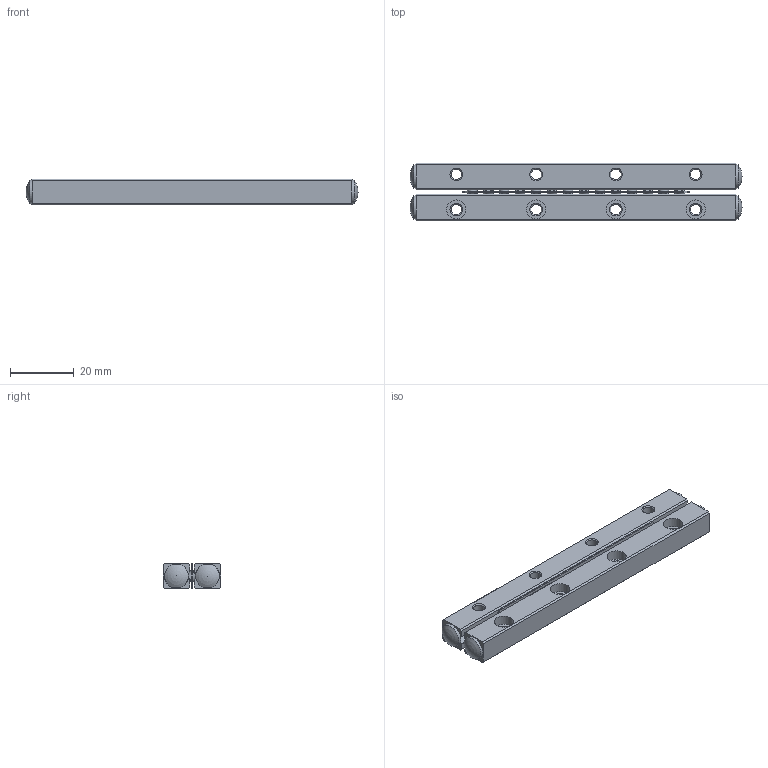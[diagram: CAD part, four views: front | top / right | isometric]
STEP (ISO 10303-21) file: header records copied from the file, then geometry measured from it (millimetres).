
FILE_DESCRIPTION(/* description */ ('Unknown'),/* implementation_level */ '2;1');
FILE_NAME(/* name */ 'VR3-100x14Z',/* time_stamp */ '2025-06-12T09:16:02+08:00',/* author */ ('Unknown'),/* organization */ ('Unknown'),/* preprocessor_version */ 'ST-DEVELOPER v18.102',/* originating_system */ 'Solid Edge',/* authorisation */ 'Unknown');
FILE_SCHEMA (('AUTOMOTIVE_DESIGN {1 0 10303 214 3 1 1}'));
Length unit declared in the file: millimetre
Products named in the file (4): VR3-100x14Z; VR3-100_14Z Roller guide; VR3-100_14Z Roller cage; VR3-100_14Z Roller guide; Top
Assembly tree (3 placements, depth 2):
  VR3-100x14Z
    VR3-100_14Z Roller guide
    VR3-100_14Z Roller cage
    VR3-100_14Z Roller guide; Top
Bounding box: 104 x 18 x 8 mm (x, y, z)
Volume: 12426.5 mm3; surface area: 9046.6 mm2
Topology: 3 solids, 3 shells, 242 faces, 644 edges, 412 vertices
Faces by surface type: plane 160, cone 48, cylinder 30, torus 4
Full cylindrical faces by diameter (mm): 3 x14, 3.3 x8, 6 x8
Entity records: 7207 total; most frequent: DIRECTION 1214, CARTESIAN_POINT 1200, ORIENTED_EDGE 1100, EDGE_CURVE 550, AXIS2_PLACEMENT_3D 418, VERTEX_POINT 404, FACE_BOUND 404, EDGE_LOOP 400
